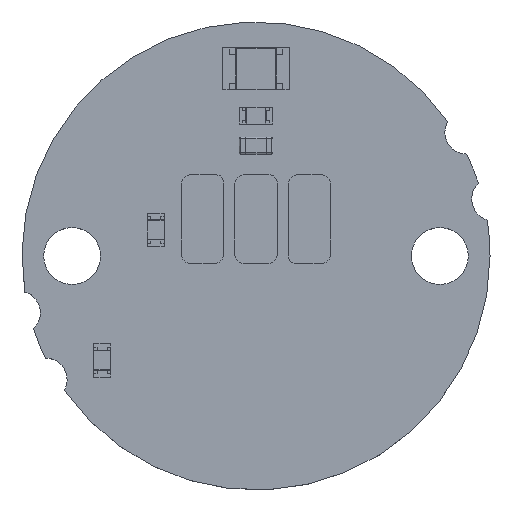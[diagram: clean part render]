
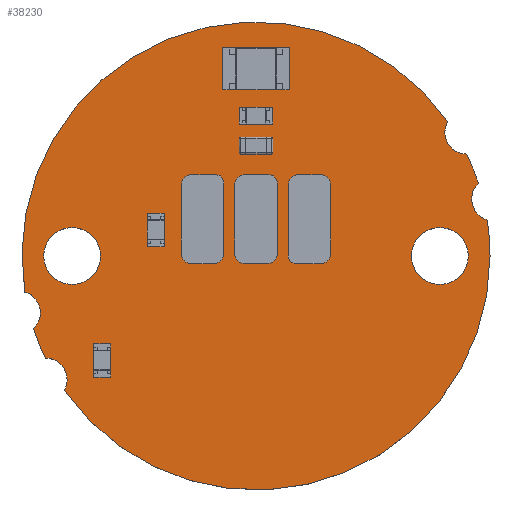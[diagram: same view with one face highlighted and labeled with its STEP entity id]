
A CAD part, top view. The second image highlights one B-rep face of the part: STEP entity #38230.
In plain terms, the highlighted planar face has unit normal (0, 0, 1).
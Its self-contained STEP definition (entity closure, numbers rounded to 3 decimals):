
#600 = CARTESIAN_POINT ( 'NONE',  ( 12.65, 8., 0. ) ) ;
#917 = DIRECTION ( 'NONE',  ( 1., 0., 0. ) ) ;
#1050 = CIRCLE ( 'NONE', #18849, 0.65 ) ;
#2221 = DIRECTION ( 'NONE',  ( 0., 0., 1. ) ) ;
#2313 = EDGE_CURVE ( 'NONE', #23277, #37422, #20739, .T. ) ;
#2350 = AXIS2_PLACEMENT_3D ( 'NONE', #39130, #38900, #32932 ) ;
#3338 = EDGE_CURVE ( 'NONE', #28926, #36001, #13230, .T. ) ;
#3413 = CARTESIAN_POINT ( 'NONE',  ( 1.699, 4.95, 0. ) ) ;
#3775 = DIRECTION ( 'NONE',  ( 0., 0., 1. ) ) ;
#3926 = CARTESIAN_POINT ( 'NONE',  ( 13.5, 8., 0. ) ) ;
#4156 = CIRCLE ( 'NONE', #31918, 0.85 ) ;
#4480 = FACE_OUTER_BOUND ( 'NONE', #26063, .T. ) ;
#4564 = ORIENTED_EDGE ( 'NONE', *, *, #3338, .F. ) ;
#5154 = CARTESIAN_POINT ( 'NONE',  ( 13.733, 12.017, 0. ) ) ;
#6659 = ORIENTED_EDGE ( 'NONE', *, *, #42731, .F. ) ;
#6667 = CARTESIAN_POINT ( 'NONE',  ( 2.5, 8., 0. ) ) ;
#7399 = CARTESIAN_POINT ( 'NONE',  ( 1.346, 5.827, 0. ) ) ;
#7435 = CIRCLE ( 'NONE', #11742, 0.65 ) ;
#7436 = CIRCLE ( 'NONE', #20333, 0.65 ) ;
#7698 = DIRECTION ( 'NONE',  ( 1., 0., 0. ) ) ;
#7973 = EDGE_CURVE ( 'NONE', #40730, #20747, #29354, .T. ) ;
#8436 = VERTEX_POINT ( 'NONE', #41686 ) ;
#8440 = CARTESIAN_POINT ( 'NONE',  ( 2.5, 8., 0. ) ) ;
#8910 = CARTESIAN_POINT ( 'NONE',  ( 15.1, 9.7, 0. ) ) ;
#9056 = DIRECTION ( 'NONE',  ( 1., 0., 0. ) ) ;
#9174 = ORIENTED_EDGE ( 'NONE', *, *, #2313, .F. ) ;
#9347 = CARTESIAN_POINT ( 'NONE',  ( 8., 8., 0. ) ) ;
#9615 = CARTESIAN_POINT ( 'NONE',  ( 2.35, 4.3, 0. ) ) ;
#10062 = DIRECTION ( 'NONE',  ( 0., 0., 1. ) ) ;
#10189 = DIRECTION ( 'NONE',  ( 0., 0., 1. ) ) ;
#10310 = VERTEX_POINT ( 'NONE', #38097 ) ;
#10598 = CIRCLE ( 'NONE', #26295, 7. ) ;
#11064 = VERTEX_POINT ( 'NONE', #5154 ) ;
#11387 = ORIENTED_EDGE ( 'NONE', *, *, #42174, .F. ) ;
#11504 = CARTESIAN_POINT ( 'NONE',  ( 8., 8., 0. ) ) ;
#11705 = CARTESIAN_POINT ( 'NONE',  ( 14.301, 11.05, 0. ) ) ;
#11725 = DIRECTION ( 'NONE',  ( 0., 0., 1. ) ) ;
#11742 = AXIS2_PLACEMENT_3D ( 'NONE', #13651, #10062, #12768 ) ;
#12279 = ORIENTED_EDGE ( 'NONE', *, *, #23153, .F. ) ;
#12306 = EDGE_CURVE ( 'NONE', #40023, #21185, #13612, .T. ) ;
#12370 = DIRECTION ( 'NONE',  ( 0., 0., 1. ) ) ;
#12508 = CIRCLE ( 'NONE', #37386, 7. ) ;
#12724 = DIRECTION ( 'NONE',  ( 1., 0., 0. ) ) ;
#12768 = DIRECTION ( 'NONE',  ( 1., 0., 0. ) ) ;
#13029 = CIRCLE ( 'NONE', #27267, 7. ) ;
#13230 = CIRCLE ( 'NONE', #13957, 0.65 ) ;
#13612 = CIRCLE ( 'NONE', #35656, 0.85 ) ;
#13651 = CARTESIAN_POINT ( 'NONE',  ( 0.9, 6.3, 0. ) ) ;
#13957 = AXIS2_PLACEMENT_3D ( 'NONE', #18907, #21381, #7698 ) ;
#13960 = ORIENTED_EDGE ( 'NONE', *, *, #14117, .F. ) ;
#14117 = EDGE_CURVE ( 'NONE', #33490, #28926, #1050, .T. ) ;
#14239 = AXIS2_PLACEMENT_3D ( 'NONE', #8910, #32148, #25698 ) ;
#14881 = EDGE_CURVE ( 'NONE', #33490, #21923, #12508, .T. ) ;
#15435 = EDGE_CURVE ( 'NONE', #20747, #25769, #7435, .T. ) ;
#16235 = CARTESIAN_POINT ( 'NONE',  ( 1.7, 4.3, 0. ) ) ;
#16264 = ORIENTED_EDGE ( 'NONE', *, *, #7973, .F. ) ;
#16819 = DIRECTION ( 'NONE',  ( 1., 0., 0. ) ) ;
#16825 = VERTEX_POINT ( 'NONE', #11705 ) ;
#17444 = CARTESIAN_POINT ( 'NONE',  ( 15., 8., 0. ) ) ;
#17634 = CARTESIAN_POINT ( 'NONE',  ( 8., 8., 0. ) ) ;
#17703 = ORIENTED_EDGE ( 'NONE', *, *, #18623, .T. ) ;
#17779 = ORIENTED_EDGE ( 'NONE', *, *, #20632, .T. ) ;
#18623 = EDGE_CURVE ( 'NONE', #10310, #16825, #10598, .T. ) ;
#18849 = AXIS2_PLACEMENT_3D ( 'NONE', #16235, #2221, #9056 ) ;
#18907 = CARTESIAN_POINT ( 'NONE',  ( 1.7, 4.3, 0. ) ) ;
#19223 = EDGE_CURVE ( 'NONE', #10310, #8436, #25671, .T. ) ;
#19333 = AXIS2_PLACEMENT_3D ( 'NONE', #27459, #20357, #34550 ) ;
#19510 = ORIENTED_EDGE ( 'NONE', *, *, #14881, .T. ) ;
#20307 = DIRECTION ( 'NONE',  ( 0., 0., 1. ) ) ;
#20333 = AXIS2_PLACEMENT_3D ( 'NONE', #21054, #41240, #16819 ) ;
#20357 = DIRECTION ( 'NONE',  ( 0., 0., 1. ) ) ;
#20632 = EDGE_CURVE ( 'NONE', #11064, #25769, #27226, .T. ) ;
#20739 = CIRCLE ( 'NONE', #36329, 0.85 ) ;
#20747 = VERTEX_POINT ( 'NONE', #35553 ) ;
#21054 = CARTESIAN_POINT ( 'NONE',  ( 14.3, 11.7, 0. ) ) ;
#21185 = VERTEX_POINT ( 'NONE', #41034 ) ;
#21381 = DIRECTION ( 'NONE',  ( 0., 0., 1. ) ) ;
#21787 = DIRECTION ( 'NONE',  ( 1., 0., 0. ) ) ;
#21839 = ORIENTED_EDGE ( 'NONE', *, *, #15435, .F. ) ;
#21893 = DIRECTION ( 'NONE',  ( 0., 0., 1. ) ) ;
#21923 = VERTEX_POINT ( 'NONE', #17444 ) ;
#22677 = DIRECTION ( 'NONE',  ( 1., 0., 0. ) ) ;
#23026 = DIRECTION ( 'NONE',  ( 0., 0., 1. ) ) ;
#23153 = EDGE_CURVE ( 'NONE', #11064, #16825, #7436, .T. ) ;
#23277 = VERTEX_POINT ( 'NONE', #32161 ) ;
#24722 = DIRECTION ( 'NONE',  ( 1., 0., 0. ) ) ;
#24882 = CIRCLE ( 'NONE', #33349, 0.85 ) ;
#24927 = EDGE_LOOP ( 'NONE', ( #31432, #6659 ) ) ;
#25671 = CIRCLE ( 'NONE', #14239, 0.65 ) ;
#25680 = DIRECTION ( 'NONE',  ( 1., 0., 0. ) ) ;
#25698 = DIRECTION ( 'NONE',  ( 1., 0., 0. ) ) ;
#25717 = CARTESIAN_POINT ( 'NONE',  ( 2.267, 3.983, 0. ) ) ;
#25769 = VERTEX_POINT ( 'NONE', #26542 ) ;
#26063 = EDGE_LOOP ( 'NONE', ( #19510, #31016, #40442, #17703, #12279, #17779, #21839, #16264, #30032, #4564, #13960 ) ) ;
#26295 = AXIS2_PLACEMENT_3D ( 'NONE', #33099, #12370, #22677 ) ;
#26542 = CARTESIAN_POINT ( 'NONE',  ( 1.083, 6.924, 0. ) ) ;
#26861 = AXIS2_PLACEMENT_3D ( 'NONE', #17634, #41819, #917 ) ;
#27185 = CARTESIAN_POINT ( 'NONE',  ( 13.5, 8., 0. ) ) ;
#27226 = CIRCLE ( 'NONE', #42800, 7. ) ;
#27267 = AXIS2_PLACEMENT_3D ( 'NONE', #9347, #23026, #12724 ) ;
#27459 = CARTESIAN_POINT ( 'NONE',  ( 8., 8., 0. ) ) ;
#27530 = DIRECTION ( 'NONE',  ( 0., 0., 1. ) ) ;
#27897 = CARTESIAN_POINT ( 'NONE',  ( 3.35, 8., 0. ) ) ;
#28306 = PLANE ( 'NONE',  #26861 ) ;
#28926 = VERTEX_POINT ( 'NONE', #9615 ) ;
#29354 = CIRCLE ( 'NONE', #2350, 0.65 ) ;
#30032 = ORIENTED_EDGE ( 'NONE', *, *, #30545, .T. ) ;
#30545 = EDGE_CURVE ( 'NONE', #40730, #36001, #30694, .T. ) ;
#30694 = CIRCLE ( 'NONE', #19333, 7. ) ;
#31016 = ORIENTED_EDGE ( 'NONE', *, *, #32150, .T. ) ;
#31432 = ORIENTED_EDGE ( 'NONE', *, *, #12306, .F. ) ;
#31869 = FACE_BOUND ( 'NONE', #33273, .T. ) ;
#31918 = AXIS2_PLACEMENT_3D ( 'NONE', #27185, #10189, #40935 ) ;
#32148 = DIRECTION ( 'NONE',  ( 0., 0., 1. ) ) ;
#32150 = EDGE_CURVE ( 'NONE', #21923, #8436, #13029, .T. ) ;
#32161 = CARTESIAN_POINT ( 'NONE',  ( 14.35, 8., 0. ) ) ;
#32932 = DIRECTION ( 'NONE',  ( 1., 0., 0. ) ) ;
#33099 = CARTESIAN_POINT ( 'NONE',  ( 8., 8., 0. ) ) ;
#33273 = EDGE_LOOP ( 'NONE', ( #9174, #11387 ) ) ;
#33349 = AXIS2_PLACEMENT_3D ( 'NONE', #8440, #21893, #25680 ) ;
#33490 = VERTEX_POINT ( 'NONE', #25717 ) ;
#34550 = DIRECTION ( 'NONE',  ( 1., 0., 0. ) ) ;
#35553 = CARTESIAN_POINT ( 'NONE',  ( 1.55, 6.3, 0. ) ) ;
#35656 = AXIS2_PLACEMENT_3D ( 'NONE', #6667, #20307, #36962 ) ;
#36001 = VERTEX_POINT ( 'NONE', #3413 ) ;
#36329 = AXIS2_PLACEMENT_3D ( 'NONE', #3926, #27530, #41069 ) ;
#36962 = DIRECTION ( 'NONE',  ( 1., 0., 0. ) ) ;
#37386 = AXIS2_PLACEMENT_3D ( 'NONE', #11504, #11725, #21787 ) ;
#37422 = VERTEX_POINT ( 'NONE', #600 ) ;
#38097 = CARTESIAN_POINT ( 'NONE',  ( 14.654, 10.173, 0. ) ) ;
#38230 = ADVANCED_FACE ( 'NONE', ( #31869, #38287, #4480 ), #28306, .T. ) ;
#38287 = FACE_BOUND ( 'NONE', #24927, .T. ) ;
#38900 = DIRECTION ( 'NONE',  ( 0., 0., 1. ) ) ;
#39130 = CARTESIAN_POINT ( 'NONE',  ( 0.9, 6.3, 0. ) ) ;
#40023 = VERTEX_POINT ( 'NONE', #27897 ) ;
#40442 = ORIENTED_EDGE ( 'NONE', *, *, #19223, .F. ) ;
#40730 = VERTEX_POINT ( 'NONE', #7399 ) ;
#40935 = DIRECTION ( 'NONE',  ( 1., 0., 0. ) ) ;
#41034 = CARTESIAN_POINT ( 'NONE',  ( 1.65, 8., 0. ) ) ;
#41069 = DIRECTION ( 'NONE',  ( 1., 0., 0. ) ) ;
#41240 = DIRECTION ( 'NONE',  ( 0., 0., 1. ) ) ;
#41333 = CARTESIAN_POINT ( 'NONE',  ( 8., 8., 0. ) ) ;
#41686 = CARTESIAN_POINT ( 'NONE',  ( 14.917, 9.076, 0. ) ) ;
#41819 = DIRECTION ( 'NONE',  ( 0., 0., 1. ) ) ;
#42174 = EDGE_CURVE ( 'NONE', #37422, #23277, #4156, .T. ) ;
#42731 = EDGE_CURVE ( 'NONE', #21185, #40023, #24882, .T. ) ;
#42800 = AXIS2_PLACEMENT_3D ( 'NONE', #41333, #3775, #24722 ) ;
